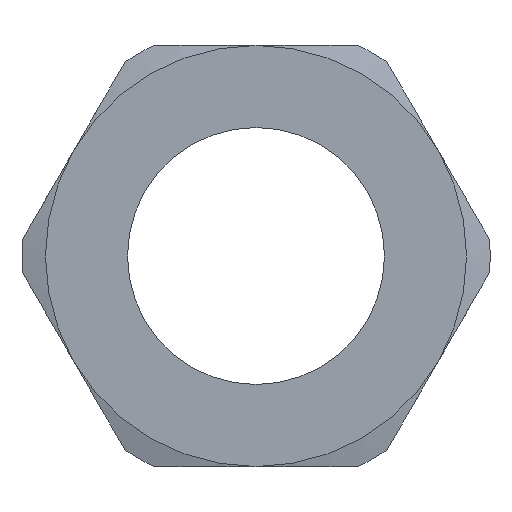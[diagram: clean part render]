
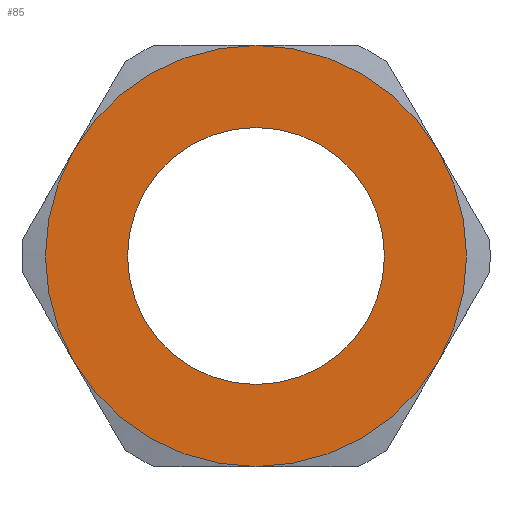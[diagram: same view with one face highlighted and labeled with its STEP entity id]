
A CAD part, left-side view. The second image highlights one B-rep face of the part: STEP entity #85.
In plain terms, the highlighted planar face has unit normal (-1, 0, 0).
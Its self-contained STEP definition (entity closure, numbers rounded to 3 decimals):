
#85 = ADVANCED_FACE( '', ( #123, #124 ), #125, .F. );
#123 = FACE_OUTER_BOUND( '', #180, .T. );
#124 = FACE_BOUND( '', #181, .T. );
#125 = PLANE( '', #182 );
#180 = EDGE_LOOP( '', ( #297, #298, #299, #300, #301, #302 ) );
#181 = EDGE_LOOP( '', ( #303 ) );
#182 = AXIS2_PLACEMENT_3D( '', #304, #305, #306 );
#297 = ORIENTED_EDGE( '', *, *, #459, .F. );
#298 = ORIENTED_EDGE( '', *, *, #461, .F. );
#299 = ORIENTED_EDGE( '', *, *, #462, .F. );
#300 = ORIENTED_EDGE( '', *, *, #463, .F. );
#301 = ORIENTED_EDGE( '', *, *, #455, .F. );
#302 = ORIENTED_EDGE( '', *, *, #457, .F. );
#303 = ORIENTED_EDGE( '', *, *, #464, .T. );
#304 = CARTESIAN_POINT( '', ( 0., 0., 0. ) );
#305 = DIRECTION( '', ( 1., 0., 0. ) );
#306 = DIRECTION( '', ( 0., 0., -1. ) );
#455 = EDGE_CURVE( '', #493, #548, #549, .T. );
#457 = EDGE_CURVE( '', #543, #493, #551, .T. );
#459 = EDGE_CURVE( '', #534, #543, #553, .T. );
#461 = EDGE_CURVE( '', #513, #534, #555, .T. );
#462 = EDGE_CURVE( '', #525, #513, #556, .T. );
#463 = EDGE_CURVE( '', #548, #525, #557, .T. );
#464 = EDGE_CURVE( '', #558, #558, #559, .T. );
#493 = VERTEX_POINT( '', #603 );
#513 = VERTEX_POINT( '', #647 );
#525 = VERTEX_POINT( '', #675 );
#534 = VERTEX_POINT( '', #695 );
#543 = VERTEX_POINT( '', #715 );
#548 = VERTEX_POINT( '', #726 );
#549 = CIRCLE( '', #727, 8.5 );
#551 = CIRCLE( '', #732, 8.5 );
#553 = CIRCLE( '', #734, 8.5 );
#555 = CIRCLE( '', #736, 8.5 );
#556 = CIRCLE( '', #737, 8.5 );
#557 = CIRCLE( '', #738, 8.5 );
#558 = VERTEX_POINT( '', #739 );
#559 = CIRCLE( '', #740, 5.188 );
#603 = CARTESIAN_POINT( '', ( 0., 0., 8.5 ) );
#647 = CARTESIAN_POINT( '', ( 0., 0., -8.5 ) );
#675 = CARTESIAN_POINT( '', ( 0., -7.361, -4.25 ) );
#695 = CARTESIAN_POINT( '', ( 0., 7.361, -4.25 ) );
#715 = CARTESIAN_POINT( '', ( 0., 7.361, 4.25 ) );
#726 = CARTESIAN_POINT( '', ( 0., -7.361, 4.25 ) );
#727 = AXIS2_PLACEMENT_3D( '', #795, #796, #797 );
#732 = AXIS2_PLACEMENT_3D( '', #798, #799, #800 );
#734 = AXIS2_PLACEMENT_3D( '', #804, #805, #806 );
#736 = AXIS2_PLACEMENT_3D( '', #810, #811, #812 );
#737 = AXIS2_PLACEMENT_3D( '', #813, #814, #815 );
#738 = AXIS2_PLACEMENT_3D( '', #816, #817, #818 );
#739 = CARTESIAN_POINT( '', ( 0., 0., -5.188 ) );
#740 = AXIS2_PLACEMENT_3D( '', #819, #820, #821 );
#795 = CARTESIAN_POINT( '', ( 0., 0., 0. ) );
#796 = DIRECTION( '', ( 1., 0., 0. ) );
#797 = DIRECTION( '', ( 0., 0., -1. ) );
#798 = CARTESIAN_POINT( '', ( 0., 0., 0. ) );
#799 = DIRECTION( '', ( 1., 0., 0. ) );
#800 = DIRECTION( '', ( 0., 0., -1. ) );
#804 = CARTESIAN_POINT( '', ( 0., 0., 0. ) );
#805 = DIRECTION( '', ( 1., 0., 0. ) );
#806 = DIRECTION( '', ( 0., 0., -1. ) );
#810 = CARTESIAN_POINT( '', ( 0., 0., 0. ) );
#811 = DIRECTION( '', ( 1., 0., 0. ) );
#812 = DIRECTION( '', ( 0., 0., -1. ) );
#813 = CARTESIAN_POINT( '', ( 0., 0., 0. ) );
#814 = DIRECTION( '', ( 1., 0., 0. ) );
#815 = DIRECTION( '', ( 0., 0., -1. ) );
#816 = CARTESIAN_POINT( '', ( 0., 0., 0. ) );
#817 = DIRECTION( '', ( 1., 0., 0. ) );
#818 = DIRECTION( '', ( 0., 0., -1. ) );
#819 = CARTESIAN_POINT( '', ( 0., 0., 0. ) );
#820 = DIRECTION( '', ( 1., 0., 0. ) );
#821 = DIRECTION( '', ( 0., 0., -1. ) );
